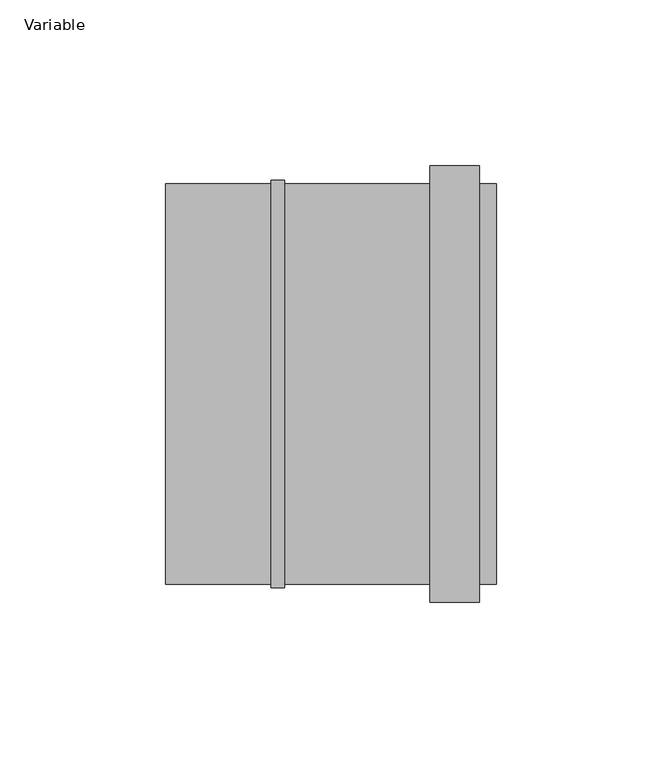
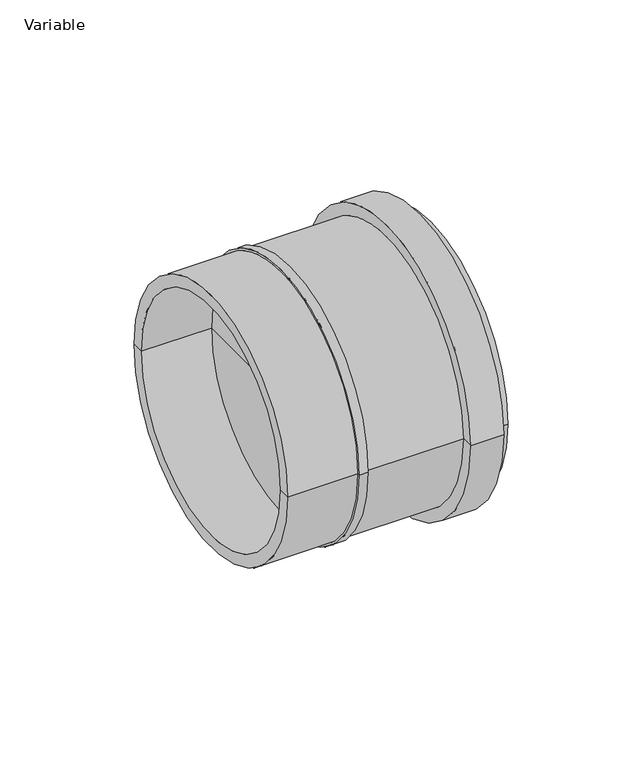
"""IFC4 building model written with IfcOpenShell, lengths in millimetres: pipe fitting geometry, AliaxisFR_Friaphon_MixedCoupling_FR : Variable."""

from ifc_helpers import new_model, si_unit, frame, origin, place, context, project, spatial, polyline, circle_curve, source, transform, mapped, element, save
from ifc_brep_helpers import plane_surface, cylinder_surface, revolved_surface, advanced_brep


def variable_441a8afe(model_context):
    return source(origin(), model_context, "Body", "AdvancedBrep", [
        advanced_brep(
        [(66.5, -60.5, 0.0), (66.5, 60.5, 0.0), (66.5, 55.0, 0.0), (66.5, -55.0, 0.0), (61.5, -60.5, 0.0), (61.5, 60.5, 0.0), (61.5, -66.0, 0.0), (61.5, 66.0, 0.0), (46.5, -66.0, 0.0), (46.5, 66.0, 0.0), (46.5, -60.5, 0.0), (46.5, 60.5, 0.0), (2.5, -60.5, 0.0), (2.5, 60.5, 0.0), (-33.5, -55.0, 0.0), (-33.5, 55.0, 0.0), (-33.5, 60.5, 0.0), (-33.5, -60.5, 0.0), (-1.5, -55.0, 0.0), (-1.5, 55.0, 0.0), (-1.5, 0.0, 0.0), (1.5, 55.0, 0.0), (1.5, -55.0, 0.0), (2.5, -61.5, 0.0), (2.5, 61.5, 0.0), (-1.5, -61.5, 0.0), (-1.5, 61.5, 0.0), (-1.5, -60.5, 0.0), (-1.5, 60.5, 0.0), (1.5, 0.0, 0.0)],
        [
            (0, 1, circle_curve(frame((66.5, 0.0, 0.0), z_axis=(1.0, 0.0, 0.0), x_axis=(0.0, 1.0, 0.0)), 60.5)),
            (1, 2),
            (2, 3, circle_curve(frame((66.5, 0.0, 0.0), z_axis=(-1.0, 0.0, 0.0), x_axis=(0.0, 1.0, 0.0)), 55.0)),
            (3, 0),
            (1, 0, circle_curve(frame((66.5, 0.0, 0.0), z_axis=(1.0, 0.0, 0.0), x_axis=(0.0, 1.0, 0.0)), 60.5)),
            (3, 2, circle_curve(frame((66.5, 0.0, 0.0), z_axis=(-1.0, 0.0, 0.0), x_axis=(0.0, 1.0, 0.0)), 55.0)),
            (4, 5, circle_curve(frame((61.5, 0.0, 0.0), z_axis=(1.0, 0.0, 0.0), x_axis=(0.0, 1.0, 0.0)), 60.5)),
            (5, 1),
            (0, 4),
            (5, 4, circle_curve(frame((61.5, 0.0, 0.0), z_axis=(1.0, 0.0, 0.0), x_axis=(0.0, 1.0, 0.0)), 60.5)),
            (6, 7, circle_curve(frame((61.5, 0.0, 0.0), z_axis=(1.0, 0.0, 0.0), x_axis=(0.0, 1.0, 0.0)), 66.0)),
            (7, 5),
            (4, 6),
            (7, 6, circle_curve(frame((61.5, 0.0, 0.0), z_axis=(1.0, 0.0, 0.0), x_axis=(0.0, 1.0, 0.0)), 66.0)),
            (8, 9, circle_curve(frame((46.5, 0.0, 0.0), z_axis=(1.0, 0.0, 0.0), x_axis=(0.0, 1.0, 0.0)), 66.0)),
            (9, 7),
            (6, 8),
            (9, 8, circle_curve(frame((46.5, 0.0, 0.0), z_axis=(1.0, 0.0, 0.0), x_axis=(0.0, 1.0, 0.0)), 66.0)),
            (10, 11, circle_curve(frame((46.5, 0.0, 0.0), z_axis=(1.0, 0.0, 0.0), x_axis=(0.0, 1.0, 0.0)), 60.5)),
            (11, 9),
            (8, 10),
            (11, 10, circle_curve(frame((46.5, 0.0, 0.0), z_axis=(1.0, 0.0, 0.0), x_axis=(0.0, 1.0, 0.0)), 60.5)),
            (12, 13, circle_curve(frame((2.5, 0.0, 0.0), z_axis=(1.0, 0.0, 0.0), x_axis=(0.0, 1.0, 0.0)), 60.5)),
            (13, 11),
            (10, 12),
            (13, 12, circle_curve(frame((2.5, 0.0, 0.0), z_axis=(1.0, 0.0, 0.0), x_axis=(0.0, 1.0, 0.0)), 60.5)),
            (14, 15, circle_curve(frame((-33.5, 0.0, 0.0), z_axis=(1.0, 0.0, 0.0), x_axis=(0.0, 1.0, 0.0)), 55.0)),
            (15, 16),
            (16, 17, circle_curve(frame((-33.5, 0.0, 0.0), z_axis=(-1.0, 0.0, 0.0), x_axis=(0.0, 1.0, 0.0)), 60.5)),
            (17, 14),
            (15, 14, circle_curve(frame((-33.5, 0.0, 0.0), z_axis=(1.0, 0.0, 0.0), x_axis=(0.0, 1.0, 0.0)), 55.0)),
            (17, 16, circle_curve(frame((-33.5, 0.0, 0.0), z_axis=(-1.0, 0.0, 0.0), x_axis=(0.0, 1.0, 0.0)), 60.5)),
            (18, 19, circle_curve(frame((-1.5, 0.0, 0.0), z_axis=(1.0, 0.0, 0.0), x_axis=(0.0, 1.0, 0.0)), 55.0)),
            (19, 15),
            (14, 18),
            (19, 18, circle_curve(frame((-1.5, 0.0, 0.0), z_axis=(1.0, 0.0, 0.0), x_axis=(0.0, 1.0, 0.0)), 55.0)),
            (20, 19),
            (18, 20),
            (2, 21),
            (21, 22, circle_curve(frame((1.5, 0.0, 0.0), z_axis=(-1.0, 0.0, 0.0), x_axis=(0.0, 1.0, 0.0)), 55.0)),
            (22, 3),
            (22, 21, circle_curve(frame((1.5, 0.0, 0.0), z_axis=(-1.0, 0.0, 0.0), x_axis=(0.0, 1.0, 0.0)), 55.0)),
            (23, 24, circle_curve(frame((2.5, 0.0, 0.0), z_axis=(1.0, 0.0, 0.0), x_axis=(0.0, 1.0, 0.0)), 61.5)),
            (24, 13),
            (12, 23),
            (24, 23, circle_curve(frame((2.5, 0.0, 0.0), z_axis=(1.0, 0.0, 0.0), x_axis=(0.0, 1.0, 0.0)), 61.5)),
            (25, 26, circle_curve(frame((-1.5, 0.0, 0.0), z_axis=(1.0, 0.0, 0.0), x_axis=(0.0, 1.0, 0.0)), 61.5)),
            (26, 24),
            (23, 25),
            (26, 25, circle_curve(frame((-1.5, 0.0, 0.0), z_axis=(1.0, 0.0, 0.0), x_axis=(0.0, 1.0, 0.0)), 61.5)),
            (27, 28, circle_curve(frame((-1.5, 0.0, 0.0), z_axis=(1.0, 0.0, 0.0), x_axis=(0.0, 1.0, 0.0)), 60.5)),
            (28, 26),
            (25, 27),
            (28, 27, circle_curve(frame((-1.5, 0.0, 0.0), z_axis=(1.0, 0.0, 0.0), x_axis=(0.0, 1.0, 0.0)), 60.5)),
            (16, 28),
            (27, 17),
            (21, 29),
            (29, 22),
        ],
        [
            plane_surface(frame((66.5, 0.0, 0.0), z_axis=(1.0, 0.0, 0.0), x_axis=(0.0, 1.0, 0.0))),
            cylinder_surface(frame((2014.5, 0.0, 0.0), z_axis=(-1.0, 0.0, 0.0), x_axis=(0.0, 1.0, 0.0)), 60.5),
            plane_surface(frame((61.5, 0.0, 0.0), z_axis=(1.0, 0.0, 0.0), x_axis=(0.0, 1.0, 0.0))),
            cylinder_surface(frame((2014.5, 0.0, 0.0), z_axis=(-1.0, 0.0, 0.0), x_axis=(0.0, 1.0, 0.0)), 66.0),
            plane_surface(frame((46.5, 0.0, 0.0), z_axis=(-1.0, 0.0, 0.0), x_axis=(0.0, 1.0, 0.0))),
            plane_surface(frame((-33.5, 0.0, 0.0), z_axis=(-1.0, 0.0, 0.0), x_axis=(0.0, 1.0, 0.0))),
            revolved_surface(polyline([(-33.5, 55.0, 0.0), (-1.5, 55.0, 0.0)]), (2014.5, 0.0, 0.0), (-1.0, 0.0, 0.0)),
            plane_surface(frame((-1.5, 0.0, 0.0), z_axis=(-1.0, 0.0, 0.0), x_axis=(0.0, 1.0, 0.0))),
            revolved_surface(polyline([(1.5, 55.0, 0.0), (66.5, 55.0, 0.0)]), (2014.5, 0.0, 0.0), (-1.0, 0.0, 0.0)),
            plane_surface(frame((2.5, 0.0, 0.0), z_axis=(1.0, 0.0, 0.0), x_axis=(0.0, 1.0, 0.0))),
            cylinder_surface(frame((2014.5, 0.0, 0.0), z_axis=(-1.0, 0.0, 0.0), x_axis=(0.0, 1.0, 0.0)), 61.5),
            plane_surface(frame((1.5, 0.0, 0.0), z_axis=(1.0, 0.0, 0.0), x_axis=(0.0, 1.0, 0.0))),
        ],
        [
            (0, [[1, 2, 3, 4]]),
            (0, [[5, -4, 6, -2]]),
            (1, [[7, 8, -1, 9]]),
            (1, [[10, -9, -5, -8]]),
            (2, [[11, 12, -7, 13]]),
            (2, [[14, -13, -10, -12]]),
            (3, [[15, 16, -11, 17]]),
            (3, [[18, -17, -14, -16]]),
            (4, [[19, 20, -15, 21]]),
            (4, [[22, -21, -18, -20]]),
            (1, [[23, 24, -19, 25]]),
            (1, [[26, -25, -22, -24]]),
            (5, [[27, 28, 29, 30]]),
            (5, [[31, -30, 32, -28]]),
            (6, [[33, 34, -27, 35]]),
            (6, [[36, -35, -31, -34]]),
            (7, [[37, -33, 38]]),
            (7, [[-38, -36, -37]]),
            (8, [[-3, 39, 40, 41]]),
            (8, [[-6, -41, 42, -39]]),
            (9, [[43, 44, -23, 45]]),
            (9, [[46, -45, -26, -44]]),
            (10, [[47, 48, -43, 49]]),
            (10, [[50, -49, -46, -48]]),
            (7, [[51, 52, -47, 53]]),
            (7, [[54, -53, -50, -52]]),
            (1, [[-29, 55, -51, 56]]),
            (1, [[-32, -56, -54, -55]]),
            (11, [[-40, 57, 58]]),
            (11, [[-42, -58, -57]]),
        ],
    ),
    ])


if __name__ == "__main__":
    model = new_model("IFC4")
    model_context = context("Model", 3, world=origin())
    ifc_project = project(units=[si_unit("LENGTHUNIT", "METRE", prefix="MILLI")], contexts=[model_context])
    site = spatial("IfcSite", under=ifc_project)
    building = spatial("IfcBuilding", under=site)
    placement = place(None, origin())
    variable_shape = variable_441a8afe(model_context)
    element("IfcPipeFitting", 1, ObjectType="AliaxisFR_Friaphon_MixedCoupling_FR : Variable", at=placement, inside=building, context=model_context, shape_type="MappedRepresentation", body=[
        mapped(variable_shape, transform((0.0, 0.0, 0.0), x_axis=(1.0, 0.0, 0.0), y_axis=(0.0, 1.0, 0.0), z_axis=(0.0, 0.0, 1.0))),
    ])
    save(model, "model.ifc")
